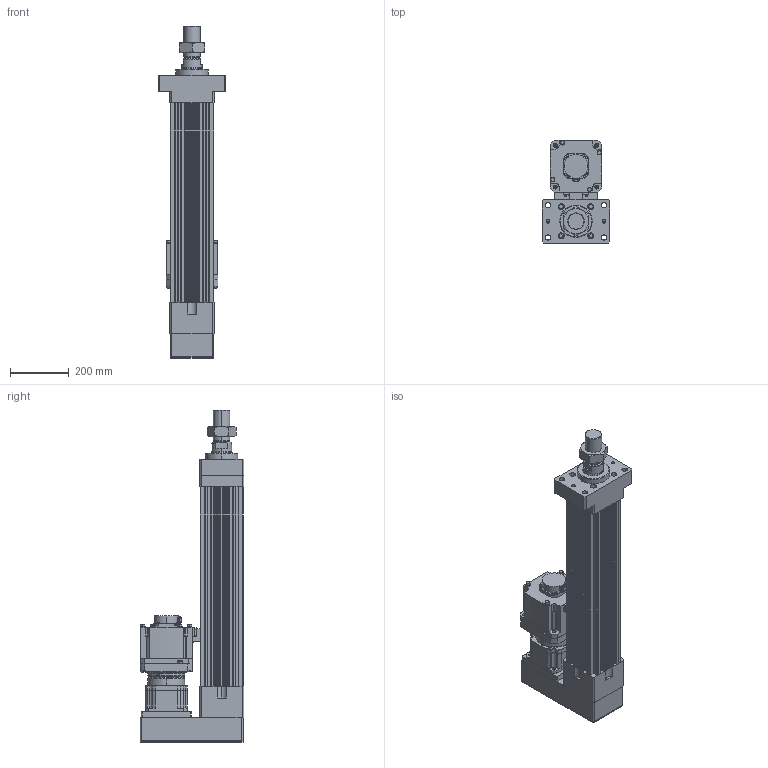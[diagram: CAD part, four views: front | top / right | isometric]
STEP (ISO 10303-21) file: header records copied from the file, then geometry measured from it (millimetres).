
FILE_DESCRIPTION (( 'STEP AP203' ), '1' );
FILE_NAME ('HES150NS(HS)-P400-W035G00-M-FMA.STEP', '2023-01-31T10:22:16', ( 'tms' ), ( '' ), 'SwSTEP 2.0', 'SolidWorks 2013', '' );
FILE_SCHEMA (( 'CONFIG_CONTROL_DESIGN' ));
Length unit declared in the file: millimetre
Products named in the file (9): HES150 ROD M ST400; M56X2.0P; AB142-003[HG-SR352]; HES150NS(HS)-P400-W035G00-M-FMA; P0403500801; HG-SR352; P1301500001; AB1421; HES150-P400-G142-FMA
Assembly tree (8 placements, depth 3):
  HES150NS(HS)-P400-W035G00-M-FMA
    HES150-P400-G142-FMA
    HES150 ROD M ST400
    M56X2.0P
    AB142-003[HG-SR352]
      AB1421
      P1301500001
      P0403500801
    HG-SR352
Bounding box: 230 x 351.5 x 1126 mm (x, y, z)
Volume: 19578096 mm3; surface area: 1903136.7 mm2
Topology: 4 solids, 18 shells, 1426 faces, 3722 edges, 2416 vertices
Faces by surface type: cylinder 669, plane 531, cone 144, bspline 76, torus 6
Entity records: 52806 total; most frequent: CARTESIAN_POINT 16363, DIRECTION 7620, ORIENTED_EDGE 7346, EDGE_CURVE 3695, AXIS2_PLACEMENT_3D 2898, VERTEX_POINT 2416, VECTOR 1824, LINE 1824
